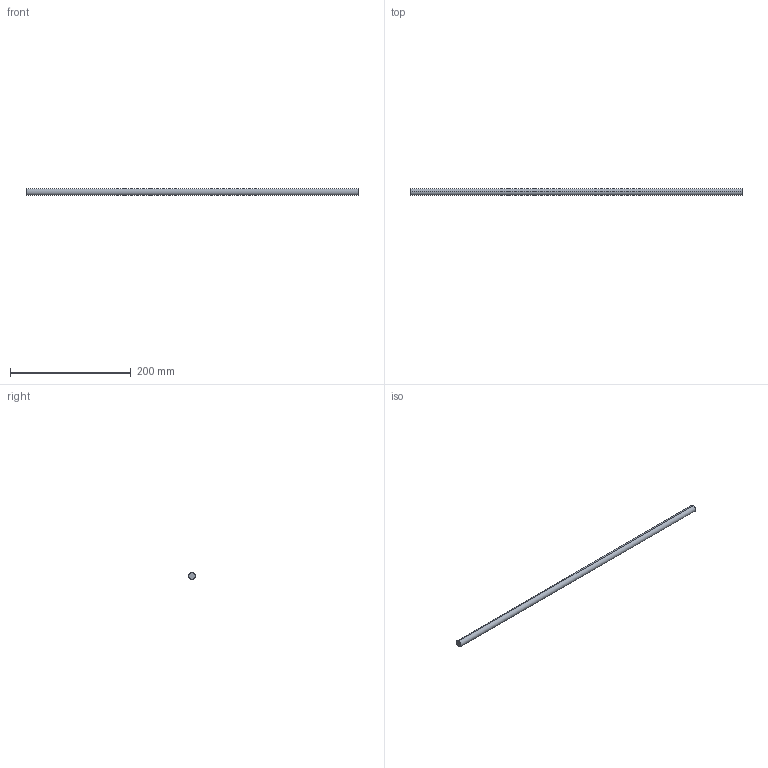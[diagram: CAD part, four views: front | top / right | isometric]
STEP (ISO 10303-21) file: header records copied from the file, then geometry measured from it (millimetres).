
FILE_DESCRIPTION (( 'STEP AP214' ), '1' );
FILE_NAME ('Querreling_2S-Rel_7102_KAB-650.step', '2010-09-22T15:05:55', ( 'grass' ), ( '' ), 'SwSTEP 2.0', 'SolidWorks 2010', '' );
FILE_SCHEMA (( 'AUTOMOTIVE_DESIGN' ));
Length unit declared in the file: millimetre
Products named in the file (1): Querreling_2S-Rel_7102_KAB-650
Bounding box: 549 x 11 x 11 mm (x, y, z)
Volume: 52173.2 mm3; surface area: 19162.1 mm2
Topology: 1 solids, 1 shells, 4 faces, 6 edges, 4 vertices
Faces by surface type: cylinder 2, plane 2
Entity records: 128 total; most frequent: DIRECTION 20, CARTESIAN_POINT 15, ORIENTED_EDGE 12, AXIS2_PLACEMENT_3D 9, EDGE_CURVE 6, FACE_OUTER_BOUND 4, EDGE_LOOP 4, CIRCLE 4
